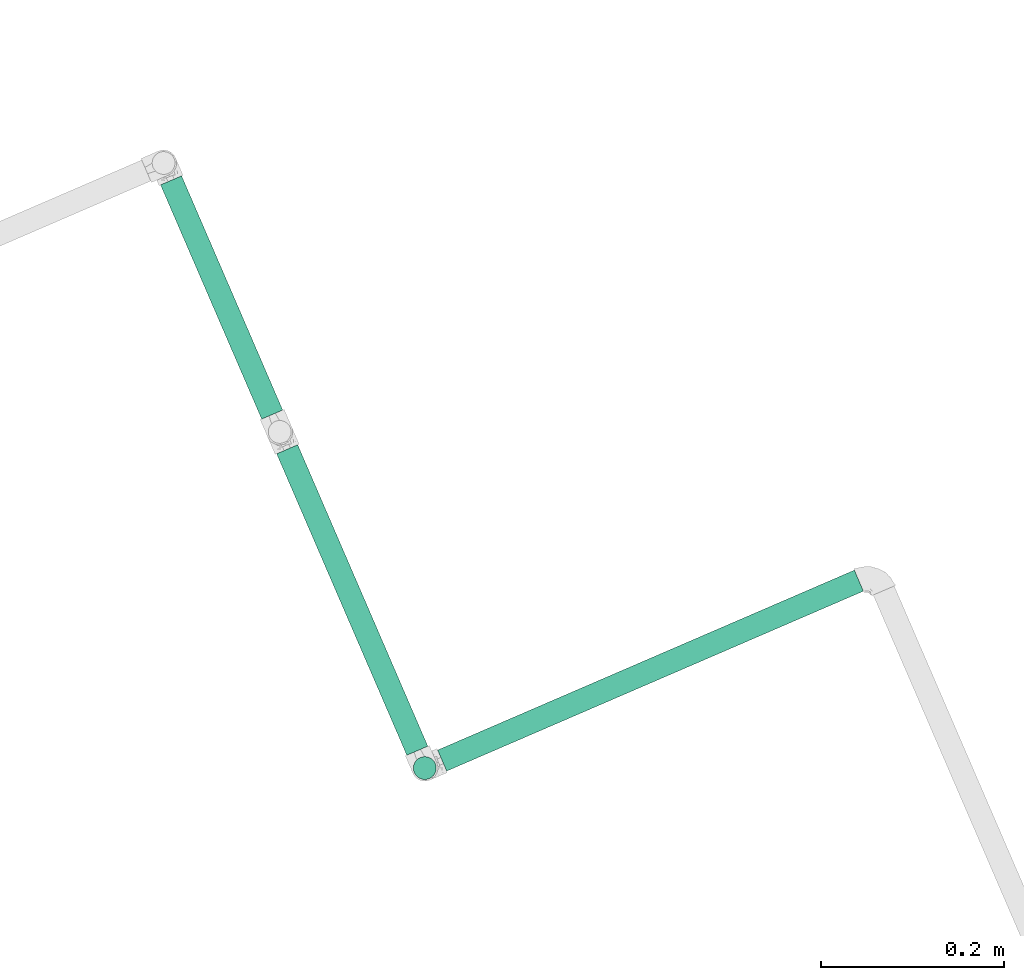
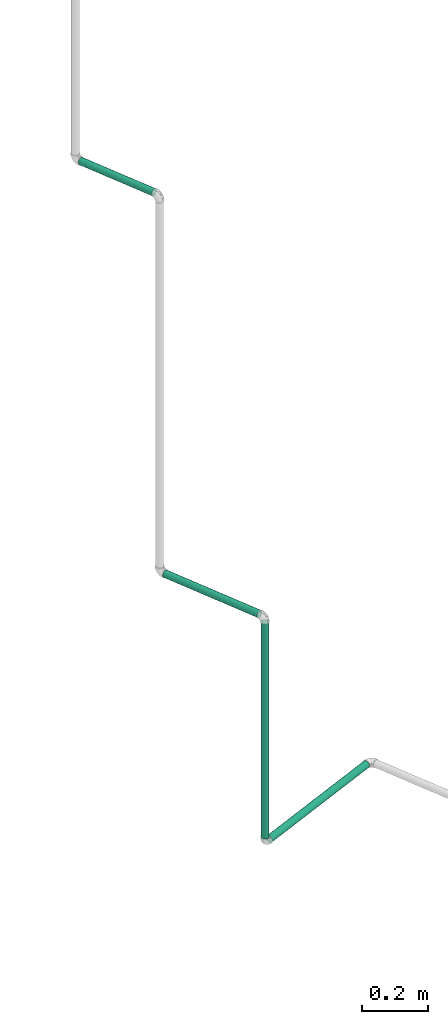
# One storey, part 10 of 26: 4 pipe segments.
"""IFC4 building model written with IfcOpenShell, lengths in metres."""

from ifc_helpers import new_model, entity, si_unit, converted_unit, derived_unit, direction, frame, origin, place, context, subcontext, project, spatial, arc, indexed_curve, outline, extrude, material, type_object, element, save


model = new_model("IFC4")

# Units and contexts
model_context = context("Model", 3, precision=1e-05, world=origin(), true_north=direction((6.12323399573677e-17, 1.0)))
body_context = subcontext(model_context, "Body", "Model", "MODEL_VIEW")
ifc_project = project(units=[si_unit("LENGTHUNIT", "METRE"), si_unit("AREAUNIT", "SQUARE_METRE"), si_unit("VOLUMEUNIT", "CUBIC_METRE"), si_unit("PRESSUREUNIT", "PASCAL"), derived_unit("VOLUMETRICFLOWRATEUNIT", [(si_unit("LENGTHUNIT", "METRE", prefix="DECI"), 3), (si_unit("TIMEUNIT", "SECOND"), -1)]), converted_unit("PLANEANGLEUNIT", "DEGREE", entity("IfcPlaneAngleMeasure", 0.0174532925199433), si_unit("PLANEANGLEUNIT", "RADIAN"), dimensions=[0, 0, 0, 0, 0, 0, 0])], contexts=[model_context])

# Site, building, storey
site_placement = place(None, origin())
site = spatial("IfcSite", under=ifc_project, at=site_placement, Name="Default", CompositionType="ELEMENT")
building_placement = place(site_placement, frame((24.575451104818, -55.896759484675, 317.15), z_axis=(0.0, 0.0, 1.0), x_axis=(-0.396377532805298, 0.918087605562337, 0.0)))
building = spatial("IfcBuilding", under=site, at=building_placement, CompositionType="ELEMENT")
storey_placement = place(building_placement, origin())
storey = spatial("IfcBuildingStorey", under=building, at=storey_placement, Name="Nivel 1", CompositionType="ELEMENT", Elevation=0.0)

# Pipe segments
ifc_material = material(Name="Cobre", Category="Undefined")
pipe_segment_type = type_object("IfcPipeSegmentType", Name="Pipe Types:GAS", PredefinedType="NOTDEFINED")
pipe_segment_1_placement = place(storey_placement, origin())
element("IfcPipeSegment", 1, at=pipe_segment_1_placement, inside=storey, type_object=pipe_segment_type, material=ifc_material, Name="Pipe Types:GAS", ObjectType="Pipe Types:GAS", PredefinedType="NOTDEFINED", context=body_context, shape_type="SweptSolid", body=[
    extrude(outline(indexed_curve([(0.0125000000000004, 0.0), (0.00883883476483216, 0.00883883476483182), (0.0, 0.0125), (-0.00883883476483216, 0.00883883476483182), (-0.0125000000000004, 0.0), (-0.00883883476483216, -0.00883883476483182), (0.0, -0.0125), (0.00883883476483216, -0.00883883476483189)], segments=[arc(1, 2, 3), arc(3, 4, 5), arc(5, 6, 7), arc(7, 8, 1)], self_intersect=False)), frame((-6.29440887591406, 50.4939021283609, -0.44), z_axis=(0.0, 1.0, 0.0), x_axis=(1.0, 0.0, 0.0)), (0.0, 0.0, 1.0), 0.495905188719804),
])
pipe_segment_2_placement = place(storey_placement, origin())
element("IfcPipeSegment", 2, at=pipe_segment_2_placement, inside=storey, type_object=pipe_segment_type, material=ifc_material, Name="Pipe Types:GAS", ObjectType="Pipe Types:GAS", PredefinedType="NOTDEFINED", context=body_context, shape_type="SweptSolid", body=[
    extrude(outline(indexed_curve([(0.0124999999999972, 3.26454693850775e-20), (0.00883883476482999, 0.00883883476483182), (-3.26454693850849e-20, 0.0125), (-0.00883883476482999, 0.00883883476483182), (-0.0124999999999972, -3.26454693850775e-20), (-0.00883883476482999, -0.00883883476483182), (3.26454693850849e-20, -0.0125), (0.00883883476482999, -0.00883883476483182)], segments=[arc(1, 2, 3), arc(3, 4, 5), arc(5, 6, 7), arc(7, 8, 1)], self_intersect=False)), frame((-6.27377137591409, 51.0104448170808, 0.39999999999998), z_axis=(1.0, 0.0, 0.0), x_axis=(0.0, -1.0, 0.0)), (0.0, 0.0, 1.0), 0.358724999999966),
])
pipe_segment_3_placement = place(storey_placement, origin())
element("IfcPipeSegment", 3, at=pipe_segment_3_placement, inside=storey, type_object=pipe_segment_type, material=ifc_material, Name="Pipe Types:GAS", ObjectType="Pipe Types:GAS", PredefinedType="NOTDEFINED", context=body_context, shape_type="SweptSolid", body=[
    extrude(outline(indexed_curve([(0.0125000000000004, 0.0), (0.00883883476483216, 0.00883883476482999), (0.0, 0.0124999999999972), (-0.00883883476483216, 0.00883883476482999), (-0.0125000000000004, 0.0), (-0.00883883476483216, -0.00883883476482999), (0.0, -0.0124999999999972), (0.00883883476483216, -0.00883883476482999)], segments=[arc(1, 2, 3), arc(3, 4, 5), arc(5, 6, 7), arc(7, 8, 1)], self_intersect=False)), frame((-6.29440887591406, 51.0104448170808, -0.419362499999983), z_axis=(0.0, 0.0, 1.0), x_axis=(-1.0, 0.0, 0.0)), (0.0, 0.0, 1.0), 0.798724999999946),
])
pipe_segment_4_placement = place(storey_placement, origin())
element("IfcPipeSegment", 4, at=pipe_segment_4_placement, inside=storey, type_object=pipe_segment_type, material=ifc_material, Name="Pipe Types:GAS", ObjectType="Pipe Types:GAS", PredefinedType="NOTDEFINED", context=body_context, shape_type="SweptSolid", body=[
    extrude(outline(indexed_curve([(0.0124999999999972, 4.07529017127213e-19), (0.00883883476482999, 0.00883883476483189), (-4.07529017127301e-19, 0.0124999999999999), (-0.00883883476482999, 0.00883883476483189), (-0.0124999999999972, -4.07529017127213e-19), (-0.00883883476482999, -0.00883883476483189), (4.07529017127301e-19, -0.0124999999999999), (0.00883883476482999, -0.00883883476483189)], segments=[arc(1, 2, 3), arc(3, 4, 5), arc(5, 6, 7), arc(7, 8, 1)], self_intersect=False)), frame((-5.87377137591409, 51.0104448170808, 1.79999999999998), z_axis=(1.0, 0.0, 0.0), x_axis=(0.0, -1.0, 0.0)), (0.0, 0.0, 1.0), 0.278725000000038),
])

save(model, "model.ifc")
